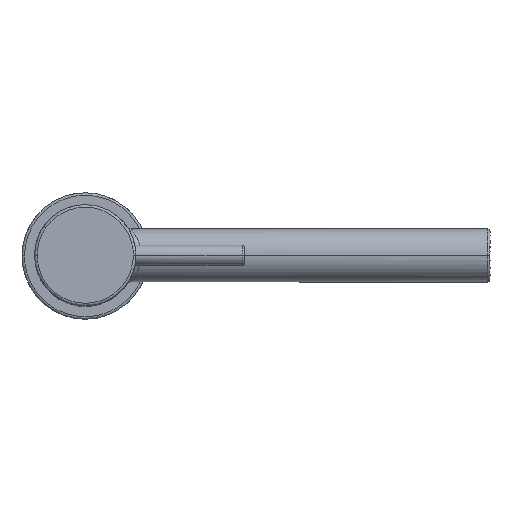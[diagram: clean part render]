
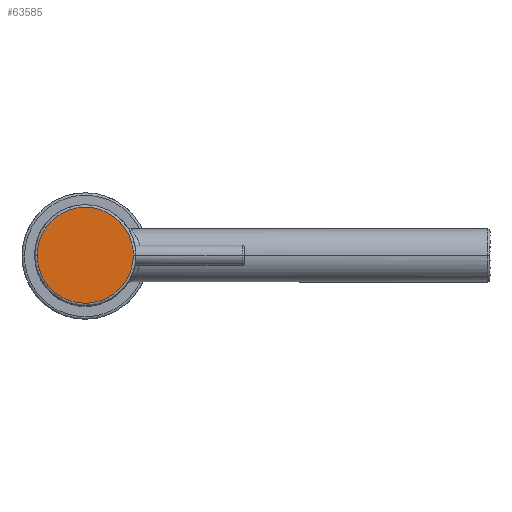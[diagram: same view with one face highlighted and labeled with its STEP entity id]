
A CAD part, top view. The second image highlights one B-rep face of the part: STEP entity #63585.
In plain terms, the highlighted planar face has unit normal (0, 0, 1).
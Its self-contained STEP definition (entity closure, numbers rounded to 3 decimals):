
#1308 = AXIS2_PLACEMENT_3D ( 'NONE', #70145, #107778, #30067 ) ;
#1526 =( BOUNDED_CURVE ( )  B_SPLINE_CURVE ( 3, ( #63868, #128222, #141553, #164185 ),
 .UNSPECIFIED., .F., .T. ) 
 B_SPLINE_CURVE_WITH_KNOTS ( ( 4, 4 ),
 ( 0.5, 1. ),
 .UNSPECIFIED. ) 
 CURVE ( )  GEOMETRIC_REPRESENTATION_ITEM ( )  RATIONAL_B_SPLINE_CURVE ( ( 1., 0.333, 0.333, 1. ) ) 
 REPRESENTATION_ITEM ( '' )  );
#4999 = FACE_OUTER_BOUND ( 'NONE', #111616, .T. ) ;
#9137 = CARTESIAN_POINT ( 'NONE',  ( -19., 38., 136. ) ) ;
#23307 = CARTESIAN_POINT ( 'NONE',  ( 19., 0., 136. ) ) ;
#24943 = CARTESIAN_POINT ( 'NONE',  ( -19., 0., 136. ) ) ;
#28346 = VERTEX_POINT ( 'NONE', #65991 ) ;
#28572 = ORIENTED_EDGE ( 'NONE', *, *, #141112, .F. ) ;
#30067 = DIRECTION ( 'NONE',  ( -1., 0., 0. ) ) ;
#56765 = PLANE ( 'NONE',  #1308 ) ;
#63585 = ADVANCED_FACE ( 'NONE', ( #4999 ), #56765, .F. ) ;
#63868 = CARTESIAN_POINT ( 'NONE',  ( 19., 0., 136. ) ) ;
#64062 = ORIENTED_EDGE ( 'NONE', *, *, #71805, .F. ) ;
#65991 = CARTESIAN_POINT ( 'NONE',  ( -19., 0., 136. ) ) ;
#70145 = CARTESIAN_POINT ( 'NONE',  ( 0., 0., 136. ) ) ;
#71805 = EDGE_CURVE ( 'NONE', #28346, #91135, #84757, .T. ) ;
#75993 = CARTESIAN_POINT ( 'NONE',  ( 19., 38., 136. ) ) ;
#84757 =( BOUNDED_CURVE ( )  B_SPLINE_CURVE ( 3, ( #24943, #9137, #75993, #23307 ),
 .UNSPECIFIED., .F., .F. ) 
 B_SPLINE_CURVE_WITH_KNOTS ( ( 4, 4 ),
 ( 0., 0.5 ),
 .UNSPECIFIED. ) 
 CURVE ( )  GEOMETRIC_REPRESENTATION_ITEM ( )  RATIONAL_B_SPLINE_CURVE ( ( 1., 0.333, 0.333, 1. ) ) 
 REPRESENTATION_ITEM ( '' )  );
#91135 = VERTEX_POINT ( 'NONE', #98446 ) ;
#98446 = CARTESIAN_POINT ( 'NONE',  ( 19., 0., 136. ) ) ;
#107778 = DIRECTION ( 'NONE',  ( 0., 0., -1. ) ) ;
#111616 = EDGE_LOOP ( 'NONE', ( #64062, #28572 ) ) ;
#128222 = CARTESIAN_POINT ( 'NONE',  ( 19., -38., 136. ) ) ;
#141112 = EDGE_CURVE ( 'NONE', #91135, #28346, #1526, .T. ) ;
#141553 = CARTESIAN_POINT ( 'NONE',  ( -19., -38., 136. ) ) ;
#164185 = CARTESIAN_POINT ( 'NONE',  ( -19., 0., 136. ) ) ;
